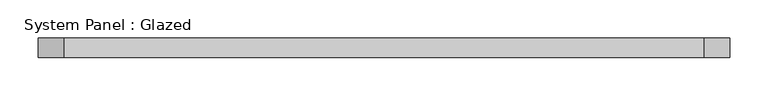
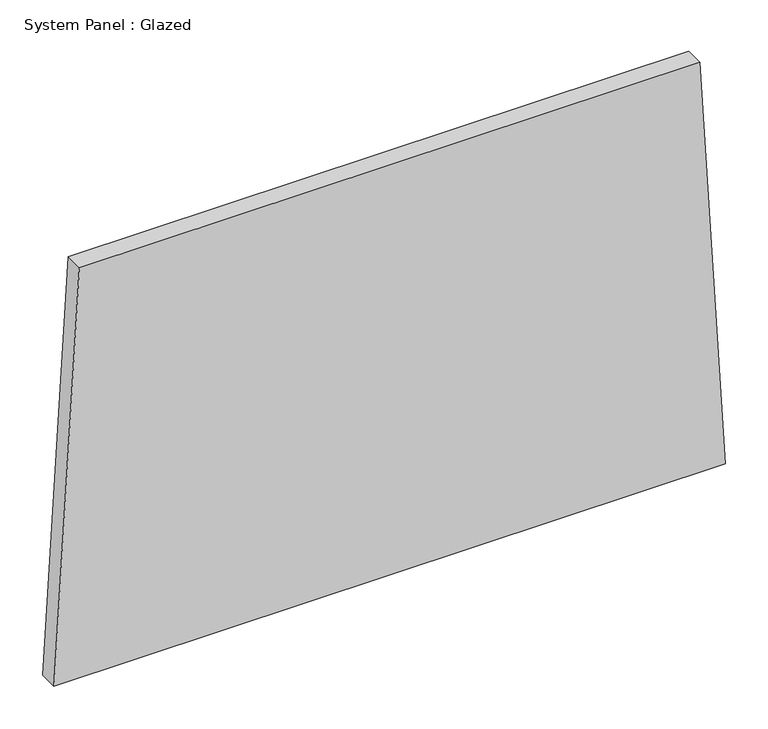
"""IFC4 building model written with IfcOpenShell, lengths in millimetres: plate geometry, System Panel : Glazed."""

from ifc_helpers import new_model, si_unit, frame, origin, place, context, project, spatial, polyline, outline, extrude, source, transform, mapped, element, save


def system_panel_glazed_5132798e(model_context):
    return source(origin(), model_context, "Body", "SweptSolid", [
        extrude(outline(polyline([(0.0, -451.5250405), (0.0, 451.5250405), (583.1579468, 417.3836652), (583.1579468, -417.3836652), (0.0, -451.5250405)])), frame((0.0, 19.05, 0.0), z_axis=(0.0, 1.0, 0.0), x_axis=(0.0, 0.0, 1.0)), (0.0, 0.0, 1.0), 25.4),
    ])


if __name__ == "__main__":
    model = new_model("IFC4")
    model_context = context("Model", 3, world=origin())
    ifc_project = project(units=[si_unit("LENGTHUNIT", "METRE", prefix="MILLI")], contexts=[model_context])
    site = spatial("IfcSite", under=ifc_project)
    building = spatial("IfcBuilding", under=site)
    placement = place(None, origin())
    system_panel_glazed_shape = system_panel_glazed_5132798e(model_context)
    element("IfcPlate", 1, ObjectType="System Panel : Glazed", at=placement, inside=building, context=model_context, shape_type="MappedRepresentation", body=[
        mapped(system_panel_glazed_shape, transform((0.0, 0.0, 0.0), x_axis=(1.0, 0.0, 0.0), y_axis=(0.0, 1.0, 0.0), z_axis=(0.0, 0.0, 1.0))),
    ])
    save(model, "model.ifc")
